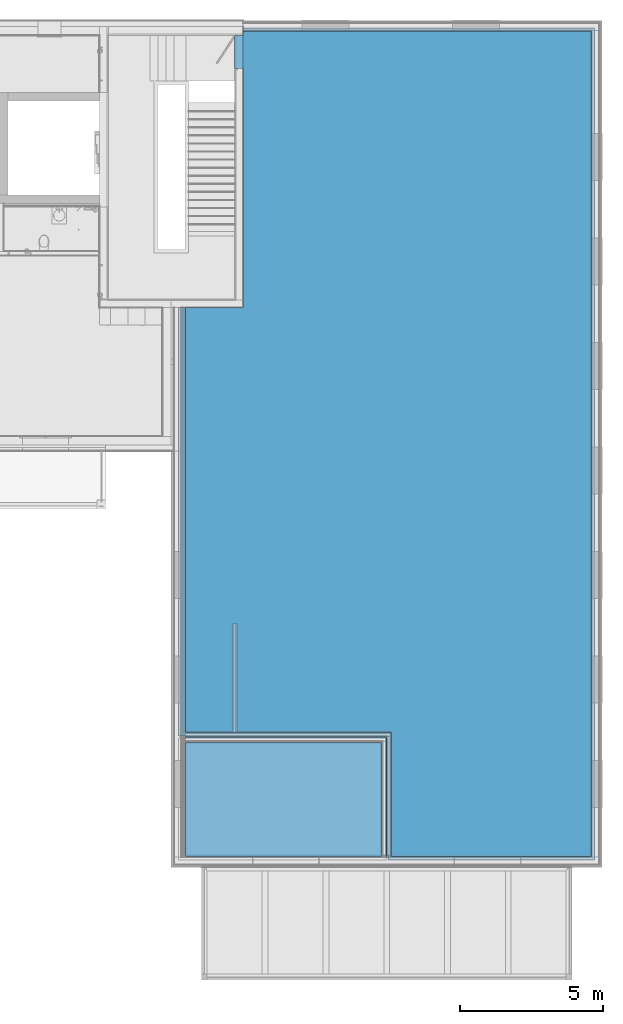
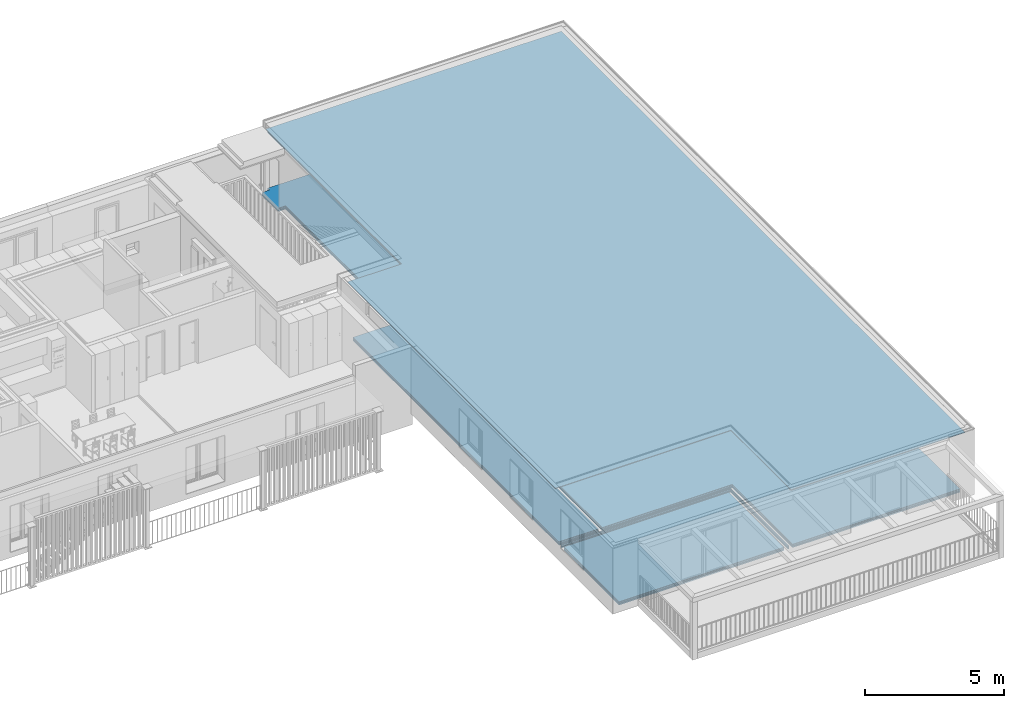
# One storey, part 16 of 34: 8 building element parts, 3 elements without a shape of their own.
"""IFC4 building model written with IfcOpenShell, lengths in millimetres."""

from ifc_helpers import new_model, entity, si_unit, converted_unit, derived_unit, direction, frame, origin_with_axes, place, context, subcontext, project, spatial, polygons, material, type_object, element, aggregate, save


model = new_model("IFC4")

# Units and contexts
model_context = context("Model", 3, precision=0.01, world=origin_with_axes(), true_north=direction((0.0, 1.0)))
body_context = subcontext(model_context, "Body", "Model", "MODEL_VIEW")
ifc_project = project(units=[si_unit("LENGTHUNIT", "METRE", prefix="MILLI"), si_unit("AREAUNIT", "SQUARE_METRE"), si_unit("VOLUMEUNIT", "CUBIC_METRE"), converted_unit("PLANEANGLEUNIT", "DEGREE", entity("IfcPlaneAngleMeasure", 0.0174532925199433), si_unit("PLANEANGLEUNIT", "RADIAN"), dimensions=[0, 0, 0, 0, 0, 0, 0]), converted_unit("TIMEUNIT", "Year", entity("IfcTimeMeasure", 31557600.0), si_unit("TIMEUNIT", "SECOND"), dimensions=[0, 0, 1, 0, 0, 0, 0]), si_unit("MASSUNIT", "GRAM", prefix="KILO"), si_unit("THERMODYNAMICTEMPERATUREUNIT", "DEGREE_CELSIUS"), si_unit("LUMINOUSINTENSITYUNIT", "LUMEN"), si_unit("ENERGYUNIT", "JOULE", prefix="MEGA"), derived_unit("THERMALCONDUCTANCEUNIT", [(si_unit("POWERUNIT", "WATT"), 1), (si_unit("LENGTHUNIT", "METRE"), -1), (si_unit("THERMODYNAMICTEMPERATUREUNIT", "KELVIN"), -1)]), derived_unit("SPECIFICHEATCAPACITYUNIT", [(si_unit("ENERGYUNIT", "JOULE"), 1), (si_unit("MASSUNIT", "GRAM", prefix="KILO"), -1), (si_unit("THERMODYNAMICTEMPERATUREUNIT", "KELVIN"), -1)]), derived_unit("MASSDENSITYUNIT", [(si_unit("MASSUNIT", "GRAM", prefix="KILO"), 1), (si_unit("VOLUMEUNIT", "CUBIC_METRE"), -1)])], contexts=[model_context])

# Site, building, storey
site_placement = place(None, origin_with_axes())
site = spatial("IfcSite", under=ifc_project, at=site_placement, Name="Gelände", CompositionType="ELEMENT")
building_placement = place(site_placement, origin_with_axes())
building = spatial("IfcBuilding", under=site, at=building_placement, Name="Gebäude", CompositionType="ELEMENT")
storey_placement = place(building_placement, frame((0.0, 0.0, 5799.999999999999), z_axis=(0.0, 0.0, 1.0), x_axis=(1.0, 0.0, 0.0)))
storey = spatial("IfcBuildingStorey", under=building, at=storey_placement, Name="2.OG", CompositionType="ELEMENT", Elevation=5800.0)

# Slab, building element part
slab_type = type_object("IfcSlabType", Name="Geschossdecke Typ 01 256", PredefinedType="NOTDEFINED")
slab_placement = place(storey_placement, frame((32679.99744477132, 8696.597281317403, 3399.999948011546), z_axis=(0.0, 0.0, 1.0), x_axis=(1.0, 0.0, 0.0)))
slab = element("IfcSlab", 1, at=slab_placement, inside=storey, type_object=slab_type, Name="Deckennr.-073", PredefinedType="NOTDEFINED")
ifc_material_1 = material(Name="Grobspanplatte-OSB")
building_element_part_1_placement = place(slab_placement, origin_with_axes())
building_element_part_1 = element("IfcBuildingElementPart", 2, at=building_element_part_1_placement, material=ifc_material_1, Name="Grobspanplatte-OSB", PredefinedType="NOTDEFINED", context=body_context, shape_type="Tessellation", body=[
    polygons([(0.0, 0.0, -237.9999999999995), (0.0, 0.0, -256.0000000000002), (0.0, 29002.00000000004, -256.0000000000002), (0.0, 29002.00000000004, -237.9999999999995), (-7211.000000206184, 0.0, -237.9999999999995), (-7211.000000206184, 0.0, -256.0000000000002), (-7211.000000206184, 4318.000000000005, -256.0000000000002), (-14502.00000000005, 4318.000000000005, -256.0000000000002), (-14502.00000000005, 19251.00000000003, -256.0000000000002), (-12251.00000000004, 19251.00000000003, -256.0000000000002), (-12251.00000000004, 29002.00000000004, -256.0000000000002), (-12251.00000000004, 29002.00000000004, -237.9999999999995), (-12251.00000000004, 19251.00000000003, -237.9999999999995), (-14502.00000000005, 19251.00000000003, -237.9999999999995), (-14502.00000000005, 4318.000000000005, -237.9999999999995), (-7211.000000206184, 4318.000000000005, -237.9999999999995)], [[[1, 2, 3, 4]], [[5, 6, 2, 1]], [[3, 2, 6, 7, 8, 9, 10, 11]], [[4, 3, 11, 12]], [[5, 1, 4, 12, 13, 14, 15, 16]], [[16, 7, 6, 5]], [[15, 8, 7, 16]], [[14, 9, 8, 15]], [[13, 10, 9, 14]], [[12, 11, 10, 13]]], closed=True),
])
aggregate(slab, [building_element_part_1])

# Covering, building element parts
covering_type_1 = type_object("IfcCoveringType", Name="Deckenbekleidung Typ 01 65", PredefinedType="NOTDEFINED")
covering_1_placement = place(storey_placement, frame((32679.99744477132, 8696.597281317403, 3143.999948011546), z_axis=(0.0, 0.0, 1.0), x_axis=(1.0, 0.0, 0.0)))
covering_1 = element("IfcCovering", 3, at=covering_1_placement, inside=storey, type_object=covering_type_1, Name="Deckennr.-073", PredefinedType="NOTDEFINED")
ifc_material_2 = material(Name="Lattenrost vertikal")
building_element_part_2_placement = place(covering_1_placement, origin_with_axes())
building_element_part_2 = element("IfcBuildingElementPart", 4, at=building_element_part_2_placement, material=ifc_material_2, Name="Lattenrost vertikal", PredefinedType="NOTDEFINED", context=body_context, shape_type="Tessellation", body=[
    polygons([(-7075.000000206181, 4436.000000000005, -39.99999999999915), (-7075.000000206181, 4436.000000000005, 0.0), (-7075.000000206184, 4454.000000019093, 0.0), (-7075.000000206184, 4454.000000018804, -39.99999999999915), (-7075.000000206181, 130.0000000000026, 0.0), (-7075.000000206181, 130.0000000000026, -39.99999999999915), (-130.0000000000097, 130.0000000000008, 0.0), (-130.0000000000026, 28872.00000000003, 0.0), (-12251.00000000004, 28872.00000000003, 0.0), (-12251.00000000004, 19251.00000000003, 0.0), (-14267.00000000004, 19251.00000000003, 0.0), (-14267.00000000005, 4454.000001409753, 0.0), (-14267.00000000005, 4454.000001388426, -39.99999999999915), (-14267.00000000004, 19251.00000000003, -39.99999999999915), (-12251.00000000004, 19251.00000000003, -39.99999999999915), (-12251.00000000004, 28872.00000000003, -39.99999999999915), (-130.0000000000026, 28872.00000000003, -39.99999999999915), (-130.0000000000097, 130.0000000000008, -39.99999999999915)], [[[1, 2, 3, 4]], [[5, 2, 1, 6]], [[2, 5, 7, 8, 9, 10, 11, 12, 3]], [[3, 12, 13, 4]], [[6, 1, 4, 13, 14, 15, 16, 17, 18]], [[5, 6, 18, 7]], [[17, 8, 7, 18]], [[8, 17, 16, 9]], [[9, 16, 15, 10]], [[15, 14, 11, 10]], [[13, 12, 11, 14]]], closed=True),
])
ifc_material_3 = material(Name="Gipskartonplatte GKP")
building_element_part_3_placement = place(covering_1_placement, origin_with_axes())
building_element_part_3 = element("IfcBuildingElementPart", 5, at=building_element_part_3_placement, material=ifc_material_3, Name="Gipskartonplatte GKP", PredefinedType="NOTDEFINED", context=body_context, shape_type="Tessellation", body=[
    polygons([(-7093.000000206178, 4418.000000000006, -52.49999999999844), (-7093.000000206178, 4418.000000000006, -39.99999999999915), (-7093.000000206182, 4435.999999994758, -39.99999999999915), (-7093.000000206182, 4435.999999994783, -52.49999999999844), (-7093.000000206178, 130.0000000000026, -39.99999999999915), (-7093.000000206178, 130.0000000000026, -52.49999999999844), (-7211.000000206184, 130.0000000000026, -39.99999999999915), (-7211.000000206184, 115.000000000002, -39.99999999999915), (-115.0000000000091, 115.0000000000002, -39.99999999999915), (-115.000000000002, 28887.00000000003, -39.99999999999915), (-12251.00000000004, 28887.00000000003, -39.99999999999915), (-12251.00000000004, 19251.00000000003, -39.99999999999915), (-14267.00000000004, 19251.00000000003, -39.99999999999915), (-14267.00000000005, 4435.999999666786, -39.99999999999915), (-14267.00000000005, 4435.999999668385, -52.49999999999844), (-14267.00000000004, 19251.00000000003, -52.49999999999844), (-12251.00000000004, 19251.00000000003, -52.49999999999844), (-12251.00000000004, 28887.00000000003, -52.49999999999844), (-115.000000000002, 28887.00000000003, -52.49999999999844), (-115.0000000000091, 115.0000000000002, -52.49999999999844), (-7211.000000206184, 115.000000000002, -52.49999999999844), (-7211.000000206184, 130.0000000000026, -52.49999999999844)], [[[1, 2, 3, 4]], [[5, 2, 1, 6]], [[5, 7, 8, 9, 10, 11, 12, 13, 14, 3, 2]], [[3, 14, 15, 4]], [[6, 1, 4, 15, 16, 17, 18, 19, 20, 21, 22]], [[5, 6, 22, 7]], [[7, 22, 21, 8]], [[20, 9, 8, 21]], [[19, 10, 9, 20]], [[10, 19, 18, 11]], [[11, 18, 17, 12]], [[17, 16, 13, 12]], [[15, 14, 13, 16]]], closed=True),
])
building_element_part_4_placement = place(covering_1_placement, origin_with_axes())
building_element_part_4 = element("IfcBuildingElementPart", 6, at=building_element_part_4_placement, material=ifc_material_3, Name="Gipskartonplatte GKP", PredefinedType="NOTDEFINED", context=body_context, shape_type="Tessellation", body=[
    polygons([(-7093.000000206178, 4418.000000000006, -64.9999999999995), (-7093.000000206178, 4418.000000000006, -52.50000000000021), (-7093.000000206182, 4435.999999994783, -52.50000000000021), (-7093.000000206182, 4435.999999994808, -64.9999999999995), (-7093.000000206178, 130.0000000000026, -52.50000000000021), (-7093.000000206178, 130.0000000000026, -64.9999999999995), (-7211.000000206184, 130.0000000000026, -52.50000000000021), (-7211.000000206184, 115.000000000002, -52.50000000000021), (-115.0000000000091, 115.0000000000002, -52.50000000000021), (-115.000000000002, 28887.00000000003, -52.50000000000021), (-12251.00000000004, 28887.00000000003, -52.50000000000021), (-12251.00000000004, 19251.00000000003, -52.50000000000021), (-14267.00000000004, 19251.00000000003, -52.50000000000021), (-14267.00000000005, 4435.999999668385, -52.50000000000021), (-14267.00000000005, 4435.999999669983, -64.9999999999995), (-14267.00000000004, 19251.00000000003, -64.9999999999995), (-12251.00000000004, 19251.00000000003, -64.9999999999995), (-12251.00000000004, 28887.00000000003, -64.9999999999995), (-115.000000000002, 28887.00000000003, -64.9999999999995), (-115.0000000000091, 115.0000000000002, -64.9999999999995), (-7211.000000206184, 115.000000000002, -64.9999999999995), (-7211.000000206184, 130.0000000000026, -64.9999999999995)], [[[1, 2, 3, 4]], [[5, 2, 1, 6]], [[5, 7, 8, 9, 10, 11, 12, 13, 14, 3, 2]], [[3, 14, 15, 4]], [[6, 1, 4, 15, 16, 17, 18, 19, 20, 21, 22]], [[5, 6, 22, 7]], [[7, 22, 21, 8]], [[20, 9, 8, 21]], [[19, 10, 9, 20]], [[10, 19, 18, 11]], [[11, 18, 17, 12]], [[12, 17, 16, 13]], [[15, 14, 13, 16]]], closed=True),
])
aggregate(covering_1, [building_element_part_2, building_element_part_3, building_element_part_4])

covering_type_2 = type_object("IfcCoveringType", Name="Bodenaufbau Typ 01 150", PredefinedType="NOTDEFINED")
covering_2_placement = place(storey_placement, frame((18412.99744477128, 8826.597281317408, 500.0), z_axis=(0.0, 0.0, 1.0), x_axis=(1.0, 0.0, 0.0)))
covering_2 = element("IfcCovering", 7, at=covering_2_placement, inside=storey, type_object=covering_type_2, Name="Decke-007", PredefinedType="NOTDEFINED")
ifc_material_4 = material(Name="Bodenbelag")
building_element_part_5_placement = place(covering_2_placement, origin_with_axes())
building_element_part_5 = element("IfcBuildingElementPart", 8, at=building_element_part_5_placement, material=ifc_material_4, Name="Bodenbelag", PredefinedType="NOTDEFINED", context=body_context, shape_type="Tessellation", body=[
    polygons([(6839.999999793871, 0.0, 150.0000000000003), (6839.999999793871, 3972.000000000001, 150.0000000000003), (0.0, 3972.000000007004, 150.0000000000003), (0.0, 0.0, 150.0000000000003), (6839.999999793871, 3972.000000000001, 135.0000000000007), (6839.999999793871, 0.0, 135.0000000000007), (0.0, 3972.000000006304, 134.9999999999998), (0.0, 0.0, 135.0000000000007)], [[[1, 2, 3, 4]], [[5, 2, 1, 6]], [[2, 5, 7, 3]], [[3, 7, 8, 4]], [[6, 1, 4, 8]], [[5, 6, 8, 7]]], closed=True),
    polygons([(7035.999999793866, 0.0, 150.0000000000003), (7035.999999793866, 4168.000000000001, 150.0000000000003), (0.0, 4168.000000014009, 150.0000000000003), (0.0, 4128.000000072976, 150.0000000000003), (6995.999999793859, 4128.000000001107, 150.0000000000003), (6995.99999979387, 4008.000000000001, 150.0000000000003), (6995.99999979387, 0.0, 150.0000000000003), (7035.999999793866, 4168.000000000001, 135.0000000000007), (7035.999999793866, 0.0, 135.0000000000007), (0.0, 4168.000000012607, 134.9999999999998), (0.0, 4128.000000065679, 135.0000000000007), (6995.999999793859, 4128.000000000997, 135.0000000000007), (6995.99999979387, 4008.000000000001, 135.0000000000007), (6995.99999979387, 0.0, 135.0000000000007)], [[[1, 2, 3, 4, 5, 6, 7]], [[8, 2, 1, 9]], [[2, 8, 10, 3]], [[3, 10, 11, 4]], [[5, 4, 11, 12]], [[13, 6, 5, 12]], [[7, 6, 13, 14]], [[9, 1, 7, 14]], [[8, 9, 14, 13, 12, 11, 10]]], closed=True),
    polygons([(1794.50729651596, 8095.053714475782, 150.0000000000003), (1794.50729651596, 4324.000000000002, 150.0000000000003), (7191.999999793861, 4324.000000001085, 150.0000000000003), (7191.999999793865, 4306.000000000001, 150.0000000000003), (7191.999999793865, 0.0, 150.0000000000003), (14137.00000000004, 0.0, 150.0000000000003), (14137.00000000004, 28742.00000000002, 150.0000000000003), (2016.000000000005, 28742.00000000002, 150.0000000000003), (2016.000000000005, 28611.00000000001, 150.0000000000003), (1716.000000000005, 28611.00000000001, 150.0000000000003), (1716.000000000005, 27456.00000000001, 150.0000000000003), (2016.000000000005, 27456.00000000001, 150.0000000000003), (2015.99999999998, 19121.00000000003, 150.0000000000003), (0.0, 19121.00000000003, 150.0000000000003), (0.0, 4324.000000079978, 150.0000000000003), (1640.50729651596, 4324.000000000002, 150.0000000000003), (1640.50729651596, 8095.053714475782, 150.0000000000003), (1794.50729651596, 8095.053714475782, 135.0000000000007), (1794.50729651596, 4324.000000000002, 135.0000000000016), (7191.999999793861, 4324.000000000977, 135.0000000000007), (7191.999999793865, 4306.000000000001, 135.0000000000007), (7191.999999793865, 0.0, 135.0000000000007), (14137.00000000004, 0.0, 135.0000000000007), (14137.00000000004, 28742.00000000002, 135.0000000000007), (2016.000000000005, 28742.00000000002, 135.0000000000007), (2016.000000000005, 28611.00000000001, 135.0000000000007), (1716.000000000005, 28611.00000000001, 135.0000000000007), (1716.000000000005, 27456.00000000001, 135.0000000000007), (2016.000000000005, 27456.00000000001, 135.0000000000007), (2015.99999999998, 19121.00000000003, 135.0000000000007), (0.0, 19121.00000000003, 135.0000000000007), (0.0, 4324.000000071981, 135.0000000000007), (1640.50729651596, 4324.000000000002, 135.0000000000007), (1640.50729651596, 8095.053714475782, 135.0000000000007)], [[[1, 2, 3, 4, 5, 6, 7, 8, 9, 10, 11, 12, 13, 14, 15, 16, 17]], [[2, 1, 18, 19]], [[2, 19, 20, 3]], [[21, 4, 3, 20]], [[5, 4, 21, 22]], [[5, 22, 23, 6]], [[23, 24, 7, 6]], [[24, 25, 8, 7]], [[25, 26, 9, 8]], [[26, 27, 10, 9]], [[27, 28, 11, 10]], [[28, 29, 12, 11]], [[29, 30, 13, 12]], [[30, 31, 14, 13]], [[32, 15, 14, 31]], [[33, 16, 15, 32]], [[17, 16, 33, 34]], [[18, 1, 17, 34]], [[18, 34, 33, 32, 31, 30, 29, 28, 27, 26, 25, 24, 23, 22, 21, 20, 19]]], closed=True),
])
ifc_material_5 = material(Name="Unterlagsboden")
building_element_part_6_placement = place(covering_2_placement, origin_with_axes())
building_element_part_6 = element("IfcBuildingElementPart", 9, at=building_element_part_6_placement, material=ifc_material_5, Name="Unterlagsboden", PredefinedType="NOTDEFINED", context=body_context, shape_type="Tessellation", body=[
    polygons([(6839.999999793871, 0.0, 135.0000000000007), (6839.999999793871, 3972.000000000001, 135.0000000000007), (0.0, 3972.000000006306, 134.9999999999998), (0.0, 0.0, 135.0000000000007), (6839.999999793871, 3972.000000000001, 80.00000000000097), (6839.999999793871, 0.0, 80.00000000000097), (0.0, 3972.000000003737, 80.00000000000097), (0.0, 0.0, 80.00000000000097)], [[[1, 2, 3, 4]], [[5, 2, 1, 6]], [[2, 5, 7, 3]], [[3, 7, 8, 4]], [[6, 1, 4, 8]], [[5, 6, 8, 7]]], closed=True),
    polygons([(7035.999999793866, 0.0, 135.0000000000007), (7035.999999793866, 4168.000000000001, 135.0000000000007), (0.0, 4168.000000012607, 135.0000000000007), (0.0, 4128.000000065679, 135.0000000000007), (6995.999999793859, 4128.000000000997, 135.0000000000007), (6995.99999979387, 4008.000000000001, 135.0000000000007), (6995.99999979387, 0.0, 135.0000000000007), (7035.999999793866, 4168.000000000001, 80.00000000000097), (7035.999999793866, 0.0, 80.00000000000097), (0.0, 4168.000000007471, 80.00000000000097), (0.0, 4128.000000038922, 80.00000000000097), (6995.999999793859, 4128.000000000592, 80.00000000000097), (6995.99999979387, 4008.000000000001, 80.00000000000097), (6995.99999979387, 0.0, 80.00000000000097)], [[[1, 2, 3, 4, 5, 6, 7]], [[8, 2, 1, 9]], [[2, 8, 10, 3]], [[3, 10, 11, 4]], [[5, 4, 11, 12]], [[13, 6, 5, 12]], [[7, 6, 13, 14]], [[9, 1, 7, 14]], [[8, 9, 14, 13, 12, 11, 10]]], closed=True),
    polygons([(1794.50729651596, 8095.053714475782, 135.0000000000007), (1794.50729651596, 4324.000000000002, 135.0000000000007), (7191.999999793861, 4324.000000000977, 135.0000000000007), (7191.999999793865, 4306.000000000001, 135.0000000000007), (7191.999999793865, 0.0, 135.0000000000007), (14137.00000000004, 0.0, 135.0000000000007), (14137.00000000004, 28742.00000000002, 135.0000000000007), (2016.000000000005, 28742.00000000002, 135.0000000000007), (2016.000000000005, 28611.00000000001, 135.0000000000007), (1716.000000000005, 28611.00000000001, 135.0000000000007), (1716.000000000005, 27456.00000000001, 135.0000000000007), (2016.000000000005, 27456.00000000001, 135.0000000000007), (2015.99999999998, 19121.00000000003, 135.0000000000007), (0.0, 19121.00000000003, 135.0000000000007), (0.0, 4324.000000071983, 135.0000000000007), (1640.50729651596, 4324.000000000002, 135.0000000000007), (1640.50729651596, 8095.053714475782, 135.0000000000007), (1794.50729651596, 8095.053714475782, 80.00000000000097), (1794.50729651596, 4324.000000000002, 80.00000000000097), (7191.999999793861, 4324.000000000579, 80.00000000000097), (7191.999999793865, 4306.000000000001, 80.00000000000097), (7191.999999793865, 0.0, 80.00000000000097), (14137.00000000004, 0.0, 80.00000000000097), (14137.00000000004, 28742.00000000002, 80.00000000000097), (2016.000000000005, 28742.00000000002, 80.00000000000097), (2016.000000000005, 28611.00000000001, 80.00000000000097), (1716.000000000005, 28611.00000000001, 80.00000000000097), (1716.000000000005, 27456.00000000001, 80.00000000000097), (2016.000000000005, 27456.00000000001, 80.00000000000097), (2015.99999999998, 19121.00000000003, 80.00000000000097), (0.0, 19121.00000000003, 80.00000000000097), (0.0, 4324.000000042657, 80.00000000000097), (1640.50729651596, 4324.000000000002, 80.00000000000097), (1640.50729651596, 8095.053714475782, 80.00000000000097)], [[[1, 2, 3, 4, 5, 6, 7, 8, 9, 10, 11, 12, 13, 14, 15, 16, 17]], [[2, 1, 18, 19]], [[2, 19, 20, 3]], [[21, 4, 3, 20]], [[5, 4, 21, 22]], [[5, 22, 23, 6]], [[23, 24, 7, 6]], [[24, 25, 8, 7]], [[25, 26, 9, 8]], [[26, 27, 10, 9]], [[27, 28, 11, 10]], [[28, 29, 12, 11]], [[29, 30, 13, 12]], [[30, 31, 14, 13]], [[32, 15, 14, 31]], [[33, 16, 15, 32]], [[17, 16, 33, 34]], [[18, 1, 17, 34]], [[18, 34, 33, 32, 31, 30, 29, 28, 27, 26, 25, 24, 23, 22, 21, 20, 19]]], closed=True),
])
ifc_material_6 = material(Name="Dämmung Innen")
building_element_part_7_placement = place(covering_2_placement, origin_with_axes())
building_element_part_7 = element("IfcBuildingElementPart", 10, at=building_element_part_7_placement, material=ifc_material_6, Name="Dämmung Innen", PredefinedType="NOTDEFINED", context=body_context, shape_type="Tessellation", body=[
    polygons([(6839.999999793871, 0.0, 50.00000000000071), (6839.999999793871, 3972.000000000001, 50.00000000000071), (0.0, 3972.000000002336, 50.00000000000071), (0.0, 0.0, 50.00000000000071), (6839.999999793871, 3972.000000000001, 0.0), (6839.999999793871, 0.0, 0.0), (0.0, 3972.000000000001, 0.0), (0.0, 0.0, 0.0)], [[[1, 2, 3, 4]], [[5, 2, 1, 6]], [[2, 5, 7, 3]], [[3, 7, 8, 4]], [[6, 1, 4, 8]], [[5, 6, 8, 7]]], closed=True),
    polygons([(7035.999999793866, 0.0, 50.00000000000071), (7035.999999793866, 4168.000000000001, 50.00000000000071), (0.0, 4168.000000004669, 50.00000000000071), (0.0, 4128.000000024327, 50.00000000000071), (6995.999999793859, 4128.000000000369, 50.00000000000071), (6995.99999979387, 4008.000000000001, 50.00000000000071), (6995.99999979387, 0.0, 50.00000000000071), (7035.999999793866, 4168.000000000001, 0.0), (7035.999999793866, 0.0, 0.0), (0.0, 4168.000000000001, 0.0), (0.0, 4128.000000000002, 0.0), (6995.999999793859, 4128.000000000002, 0.0), (6995.99999979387, 4008.000000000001, 0.0), (6995.99999979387, 0.0, 0.0)], [[[1, 2, 3, 4, 5, 6, 7]], [[8, 2, 1, 9]], [[2, 8, 10, 3]], [[3, 10, 11, 4]], [[5, 4, 11, 12]], [[13, 6, 5, 12]], [[7, 6, 13, 14]], [[9, 1, 7, 14]], [[8, 9, 14, 13, 12, 11, 10]]], closed=True),
    polygons([(1794.50729651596, 8095.053714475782, 50.00000000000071), (1794.50729651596, 4324.000000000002, 50.00000000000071), (7191.999999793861, 4324.000000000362, 50.00000000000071), (7191.999999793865, 4306.000000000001, 50.00000000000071), (7191.999999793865, 0.0, 50.00000000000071), (14137.00000000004, 0.0, 50.00000000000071), (14137.00000000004, 28742.00000000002, 50.00000000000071), (2016.000000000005, 28742.00000000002, 50.00000000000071), (2016.000000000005, 28611.00000000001, 50.00000000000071), (1716.000000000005, 28611.00000000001, 50.00000000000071), (1716.000000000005, 27456.00000000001, 50.00000000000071), (2016.000000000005, 27456.00000000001, 50.00000000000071), (2015.99999999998, 19121.00000000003, 50.00000000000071), (0.0, 19121.00000000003, 50.00000000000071), (0.0, 4324.000000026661, 50.00000000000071), (1640.50729651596, 4324.000000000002, 50.00000000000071), (1640.50729651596, 8095.053714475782, 50.00000000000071), (1794.50729651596, 8095.053714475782, 0.0), (1794.50729651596, 4324.000000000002, 0.0), (7191.999999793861, 4324.000000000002, 0.0), (7191.999999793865, 4306.000000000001, 0.0), (7191.999999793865, 0.0, 0.0), (14137.00000000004, 0.0, 0.0), (14137.00000000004, 28742.00000000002, 0.0), (2016.000000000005, 28742.00000000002, 0.0), (2016.000000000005, 28611.00000000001, 0.0), (1716.000000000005, 28611.00000000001, 0.0), (1716.000000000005, 27456.00000000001, 0.0), (2016.000000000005, 27456.00000000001, 0.0), (2015.99999999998, 19121.00000000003, 0.0), (0.0, 19121.00000000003, 0.0), (0.0, 4324.000000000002, 0.0), (1640.50729651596, 4324.000000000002, 0.0), (1640.50729651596, 8095.053714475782, 0.0)], [[[1, 2, 3, 4, 5, 6, 7, 8, 9, 10, 11, 12, 13, 14, 15, 16, 17]], [[2, 1, 18, 19]], [[2, 19, 20, 3]], [[21, 4, 3, 20]], [[5, 4, 21, 22]], [[5, 22, 23, 6]], [[6, 23, 24, 7]], [[7, 24, 25, 8]], [[8, 25, 26, 9]], [[9, 26, 27, 10]], [[10, 27, 28, 11]], [[11, 28, 29, 12]], [[12, 29, 30, 13]], [[13, 30, 31, 14]], [[32, 15, 14, 31]], [[33, 16, 15, 32]], [[17, 16, 33, 34]], [[18, 1, 17, 34]], [[18, 34, 33, 32, 31, 30, 29, 28, 27, 26, 25, 24, 23, 22, 21, 20, 19]]], closed=True),
])
ifc_material_7 = material(Name="Trittschalldämmung")
building_element_part_8_placement = place(covering_2_placement, origin_with_axes())
building_element_part_8 = element("IfcBuildingElementPart", 11, at=building_element_part_8_placement, material=ifc_material_7, Name="Trittschalldämmung", PredefinedType="NOTDEFINED", context=body_context, shape_type="Tessellation", body=[
    polygons([(6839.999999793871, 0.0, 80.00000000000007), (6839.999999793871, 3972.000000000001, 80.00000000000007), (0.0, 3972.000000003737, 80.00000000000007), (0.0, 0.0, 80.00000000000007), (6839.999999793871, 3972.000000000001, 49.99999999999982), (6839.999999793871, 0.0, 49.99999999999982), (0.0, 3972.000000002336, 49.99999999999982), (0.0, 0.0, 49.99999999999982)], [[[1, 2, 3, 4]], [[5, 2, 1, 6]], [[2, 5, 7, 3]], [[3, 7, 8, 4]], [[6, 1, 4, 8]], [[5, 6, 8, 7]]], closed=True),
    polygons([(7035.999999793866, 0.0, 80.00000000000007), (7035.999999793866, 4168.000000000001, 80.00000000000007), (0.0, 4168.000000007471, 80.00000000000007), (0.0, 4128.000000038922, 80.00000000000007), (6995.999999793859, 4128.000000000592, 80.00000000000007), (6995.99999979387, 4008.000000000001, 80.00000000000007), (6995.99999979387, 0.0, 80.00000000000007), (7035.999999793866, 4168.000000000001, 49.99999999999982), (7035.999999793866, 0.0, 49.99999999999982), (0.0, 4168.000000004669, 49.99999999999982), (0.0, 4128.000000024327, 49.99999999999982), (6995.999999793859, 4128.000000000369, 49.99999999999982), (6995.99999979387, 4008.000000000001, 49.99999999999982), (6995.99999979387, 0.0, 49.99999999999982)], [[[1, 2, 3, 4, 5, 6, 7]], [[8, 2, 1, 9]], [[2, 8, 10, 3]], [[3, 10, 11, 4]], [[5, 4, 11, 12]], [[13, 6, 5, 12]], [[7, 6, 13, 14]], [[9, 1, 7, 14]], [[8, 9, 14, 13, 12, 11, 10]]], closed=True),
    polygons([(1794.50729651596, 8095.053714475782, 80.00000000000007), (1794.50729651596, 4324.000000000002, 80.00000000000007), (7191.999999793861, 4324.000000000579, 80.00000000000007), (7191.999999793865, 4306.000000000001, 80.00000000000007), (7191.999999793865, 0.0, 79.99999999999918), (14137.00000000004, 0.0, 80.00000000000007), (14137.00000000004, 28742.00000000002, 80.00000000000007), (2016.000000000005, 28742.00000000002, 80.00000000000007), (2016.000000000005, 28611.00000000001, 80.00000000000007), (1716.000000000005, 28611.00000000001, 80.00000000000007), (1716.000000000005, 27456.00000000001, 80.00000000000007), (2016.000000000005, 27456.00000000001, 80.00000000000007), (2015.99999999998, 19121.00000000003, 80.00000000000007), (0.0, 19121.00000000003, 80.00000000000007), (0.0, 4324.000000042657, 80.00000000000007), (1640.50729651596, 4324.000000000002, 80.00000000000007), (1640.50729651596, 8095.053714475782, 80.00000000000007), (1794.50729651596, 8095.053714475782, 49.99999999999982), (1794.50729651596, 4324.000000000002, 49.99999999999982), (7191.999999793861, 4324.000000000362, 49.99999999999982), (7191.999999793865, 4306.000000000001, 49.99999999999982), (7191.999999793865, 0.0, 49.99999999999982), (14137.00000000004, 0.0, 49.99999999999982), (14137.00000000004, 28742.00000000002, 49.99999999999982), (2016.000000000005, 28742.00000000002, 49.99999999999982), (2016.000000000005, 28611.00000000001, 49.99999999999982), (1716.000000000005, 28611.00000000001, 49.99999999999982), (1716.000000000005, 27456.00000000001, 49.99999999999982), (2016.000000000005, 27456.00000000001, 49.99999999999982), (2015.99999999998, 19121.00000000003, 49.99999999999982), (0.0, 19121.00000000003, 49.99999999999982), (0.0, 4324.000000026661, 49.99999999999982), (1640.50729651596, 4324.000000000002, 49.99999999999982), (1640.50729651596, 8095.053714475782, 49.99999999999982)], [[[1, 2, 3, 4, 5, 6, 7, 8, 9, 10, 11, 12, 13, 14, 15, 16, 17]], [[2, 1, 18, 19]], [[2, 19, 20, 3]], [[21, 4, 3, 20]], [[5, 4, 21, 22]], [[5, 22, 23, 6]], [[23, 24, 7, 6]], [[24, 25, 8, 7]], [[25, 26, 9, 8]], [[26, 27, 10, 9]], [[27, 28, 11, 10]], [[28, 29, 12, 11]], [[29, 30, 13, 12]], [[30, 31, 14, 13]], [[32, 15, 14, 31]], [[33, 16, 15, 32]], [[17, 16, 33, 34]], [[18, 1, 17, 34]], [[18, 34, 33, 32, 31, 30, 29, 28, 27, 26, 25, 24, 23, 22, 21, 20, 19]]], closed=True),
])
aggregate(covering_2, [building_element_part_5, building_element_part_6, building_element_part_7, building_element_part_8])

save(model, "model.ifc")
